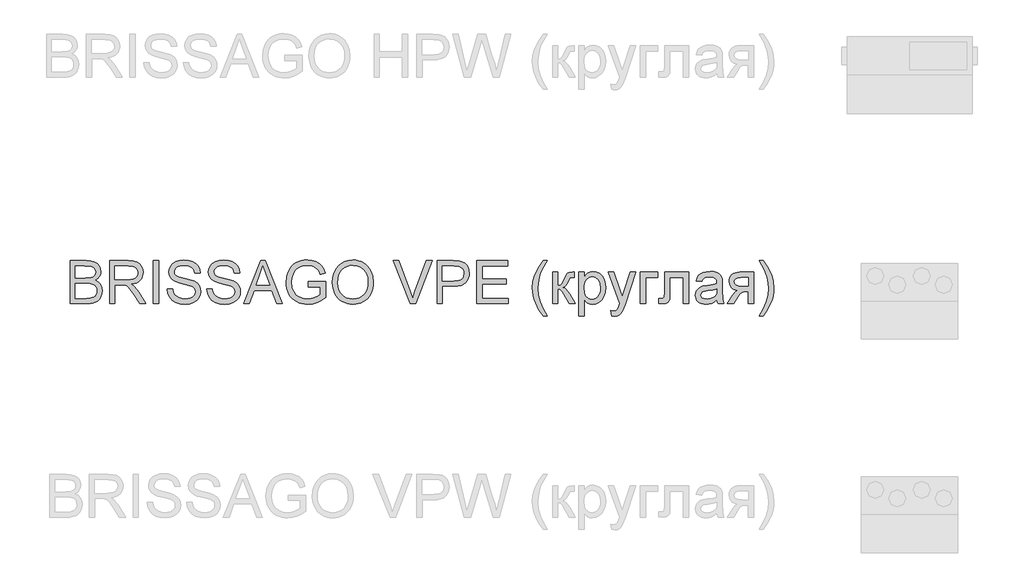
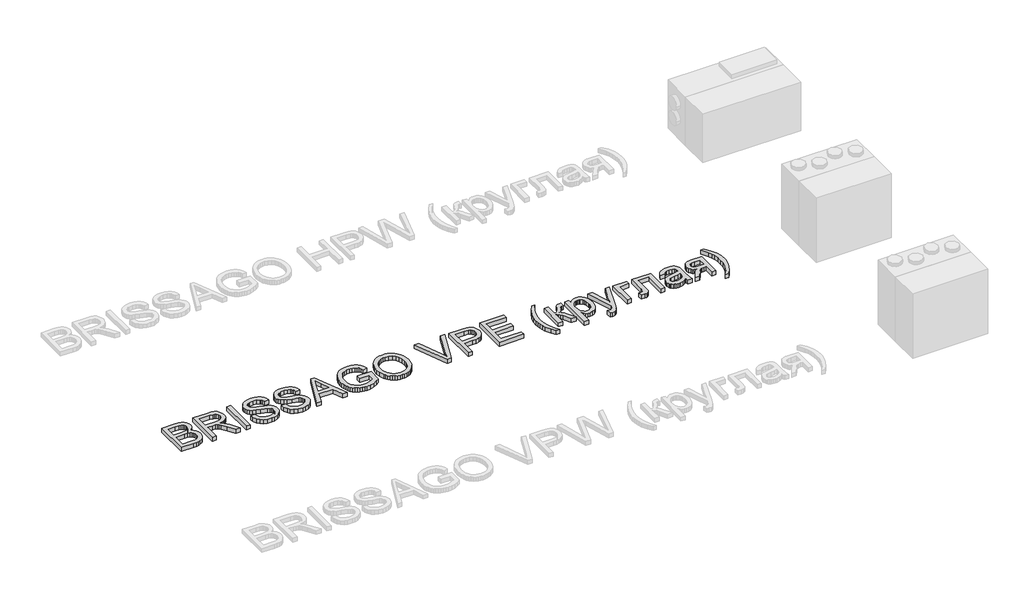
# One storey, part 14 of 28: 1 proxy.
"""IFC4 building model written with IfcOpenShell, lengths in millimetres."""

from ifc_helpers import new_model, si_unit, origin, origin_with_axes, place, context, project, spatial, polyline, outline, extrude, element, save

model = new_model("IFC4")

# Units and contexts
model_context = context("Model", 3, world=origin())
ifc_project = project(units=[si_unit("LENGTHUNIT", "METRE", prefix="MILLI")], contexts=[model_context])

# Site, building, storey
site = spatial("IfcSite", under=ifc_project)
building = spatial("IfcBuilding", under=site)
storey = spatial("IfcBuildingStorey", under=building, Name="Уровень 1", Elevation=0.0)

# Proxy
placement = place(None, origin())
element("IfcBuildingElementProxy", 1, Name="400 мм Arial", ObjectType="400 мм Arial", at=placement, inside=storey, context=model_context, shape_type="SweptSolid", body=[
    extrude(outline(polyline([(-28533.6034252, 1651.3067858), (-28533.6034252, 2053.1320263), (-28380.2702096, 2053.1320263), (-28338.0986702, 2050.1767077), (-28305.1732316, 2041.3107516), (-28279.9365268, 2026.3134289), (-28260.8311885, 2004.9640104), (-28248.8014472, 1979.8499329), (-28244.7915335, 1953.558633), (-28248.1637851, 1929.3642604), (-28258.28054, 1906.6168904), (-28275.2153745, 1886.7144745), (-28299.0418651, 1871.0549642), (-28270.5800614, 1856.1925316), (-28249.549474, 1833.5800516), (-28236.5632395, 1804.7135777), (-28232.2344947, 1771.0891634), (-28235.1898134, 1743.0688181), (-28244.0557695, 1717.0840865), (-28257.2872586, 1694.9866413), (-28273.3391763, 1678.6281553), (-28292.9963376, 1666.782355), (-28317.0435574, 1658.2229673), (-28346.2656505, 1653.0358311), (-28381.447432, 1651.3067858), (-28533.6034252, 1651.3067858)]), holes=[polyline([(-28483.3752701, 1889.8905224), (-28391.650026, 1889.8905224), (-28338.0864075, 1894.2070044), (-28319.3366885, 1901.6504835), (-28305.8599447, 1912.7973079), (-28297.7297526, 1927.4757995), (-28295.0196886, 1945.51428), (-28297.5458116, 1963.025463), (-28305.1241807, 1978.2803031), (-28317.4114393, 1990.187417), (-28334.064231, 1997.6554215), (-28359.6197669, 2001.5917588), (-28398.6152584, 2002.9038713), (-28483.3752701, 2002.9038713), (-28483.3752701, 1889.8905224)]), polyline([(-28483.3752701, 1701.5349408), (-28380.3683115, 1701.5349408), (-28343.0896026, 1703.4969781), (-28311.5498529, 1714.4353361), (-28299.9738328, 1723.8653779), (-28290.6541556, 1736.7535105), (-28284.5105262, 1752.5233854), (-28282.4626498, 1770.5986541), (-28284.8661455, 1791.5924532), (-28292.0766326, 1809.6431965), (-28304.6704596, 1823.7576024), (-28323.2239749, 1832.9423895), (-28349.5030121, 1837.9823728), (-28385.2734047, 1839.6623673), (-28483.3752701, 1839.6623673), (-28483.3752701, 1701.5349408)])]), origin_with_axes(), (0.0, 0.0, 1.0), 50.0),
    extrude(outline(polyline([(-28163.1707815, 1651.3067858), (-28163.1707815, 2053.1320263), (-27990.0209891, 2053.1320263), (-27943.4839167, 2050.4219623), (-27909.6265104, 2042.2917702), (-27884.8803149, 2027.2821848), (-27865.6768747, 2003.9339409), (-27853.3528279, 1974.9816278), (-27849.2448123, 1943.1598353), (-27850.9462665, 1922.5216553), (-27856.0506292, 1903.5757326), (-27864.5579003, 1886.322067), (-27876.4680799, 1870.7606586), (-27891.9344521, 1857.3881481), (-27911.1103011, 1846.7011761), (-27933.9956269, 1838.6997427), (-27960.5904295, 1833.3838479), (-27932.0427867, 1811.8995394), (-27891.3305125, 1760.1998563), (-27824.3269385, 1651.3067858), (-27882.6975484, 1651.3067858), (-27934.9858426, 1734.5952695), (-27972.7550608, 1789.7285178), (-27986.7958903, 1805.804961), (-27999.2916154, 1815.7745631), (-28023.1794196, 1825.3394949), (-28052.3156736, 1827.1053285), (-28112.9426264, 1827.1053285), (-28112.9426264, 1651.3067858), (-28163.1707815, 1651.3067858)]), holes=[polyline([(-28112.9426264, 1877.3334836), (-28000.5178887, 1877.3334836), (-27968.2301123, 1879.1115799), (-27943.1773484, 1884.4458688), (-27924.3172648, 1893.6919696), (-27910.6075291, 1907.2055016), (-27902.2566078, 1923.5517249), (-27899.4729674, 1941.2958998), (-27904.7827308, 1965.7968407), (-27920.7120212, 1985.5398411), (-27932.8735868, 1993.1366043), (-27948.1192299, 1998.5628637), (-27987.8627481, 2002.9038713), (-28112.9426264, 2002.9038713), (-28112.9426264, 1877.3334836)])]), origin_with_axes(), (0.0, 0.0, 1.0), 50.0),
    extrude(outline(polyline([(-27755.0670215, 1651.3067858), (-27755.0670215, 2053.1320263), (-27704.8388664, 2053.1320263), (-27704.8388664, 1651.3067858), (-27755.0670215, 1651.3067858)])), origin_with_axes(), (0.0, 0.0, 1.0), 50.0),
    extrude(outline(polyline([(-27623.2181145, 1789.4342122), (-27572.9899594, 1789.4342122), (-27567.2264748, 1761.5610197), (-27556.8031516, 1739.1570062), (-27540.5427674, 1721.3760431), (-27517.2680998, 1707.3720018), (-27488.8185589, 1698.2853165), (-27457.0335545, 1695.2564214), (-27429.0499974, 1697.5495525), (-27404.5490565, 1704.4289459), (-27384.6956915, 1715.3182529), (-27370.654862, 1729.6411253), (-27362.3039407, 1746.0854504), (-27359.5203003, 1763.339116), (-27361.6049649, 1780.1513232), (-27367.8589589, 1794.682662), (-27380.5631504, 1807.0802852), (-27401.998408, 1817.4913457), (-27475.1333487, 1836.6702604), (-27523.141949, 1849.3621892), (-27553.8600956, 1861.4409814), (-27578.8638086, 1878.3390277), (-27596.583458, 1898.8177921), (-27607.1416713, 1922.4358162), (-27610.6610757, 1948.7516416), (-27606.3078054, 1978.1699385), (-27593.2479946, 2005.6016726), (-27571.8249997, 2028.8518147), (-27542.3821774, 2045.7253355), (-27507.0409804, 2055.9892432), (-27467.9228616, 2059.4105457), (-27425.5428557, 2055.8298276), (-27388.4603506, 2045.0876734), (-27357.9997214, 2027.4048122), (-27335.4853433, 2003.0019731), (-27321.2360473, 1973.3997353), (-27315.5706646, 1940.1186774), (-27365.7988197, 1940.1186774), (-27375.020395, 1970.0887973), (-27383.3835791, 1981.9468603), (-27394.2483607, 1991.7202586), (-27424.2920569, 2004.8168576), (-27465.9608242, 2009.1823907), (-27508.6106102, 2004.8659086), (-27524.913914, 1999.470306), (-27537.8694916, 1991.9164624), (-27554.7920633, 1972.860175), (-27560.4329206, 1950.2231696), (-27556.4352696, 1930.9216276), (-27544.4423166, 1915.3970074), (-27516.0908775, 1901.5155934), (-27462.4291571, 1887.3398739), (-27407.0506541, 1873.8753928), (-27373.5488671, 1862.1276945), (-27344.9153851, 1843.905273), (-27324.9393928, 1821.4154203), (-27313.2039571, 1794.9033912), (-27309.2921452, 1764.6144403), (-27313.7925683, 1733.651039), (-27327.2938375, 1704.5270477), (-27349.2441299, 1679.4620211), (-27379.0916225, 1660.6755139), (-27414.9846424, 1648.9400782), (-27455.0715172, 1645.0282664), (-27504.2818654, 1649.2466466), (-27544.7856731, 1661.9017872), (-27577.0489241, 1683.0427392), (-27601.5376022, 1712.7185535), (-27617.2584261, 1748.8690909), (-27623.2181145, 1789.4342122)])), origin_with_axes(), (0.0, 0.0, 1.0), 50.0),
    extrude(outline(polyline([(-27252.7854708, 1789.4342122), (-27202.5573157, 1789.4342122), (-27196.7938311, 1761.5610197), (-27186.3705079, 1739.1570062), (-27170.1101237, 1721.3760431), (-27146.8354562, 1707.3720018), (-27118.3859152, 1698.2853165), (-27086.6009108, 1695.2564214), (-27058.6173537, 1697.5495525), (-27034.1164128, 1704.4289459), (-27014.2630478, 1715.3182529), (-27000.2222184, 1729.6411253), (-26991.8712971, 1746.0854504), (-26989.0876566, 1763.339116), (-26991.1723213, 1780.1513232), (-26997.4263152, 1794.682662), (-27010.1305068, 1807.0802852), (-27031.5657643, 1817.4913457), (-27104.700705, 1836.6702604), (-27152.7093054, 1849.3621892), (-27183.427452, 1861.4409814), (-27208.4311649, 1878.3390277), (-27226.1508143, 1898.8177921), (-27236.7090276, 1922.4358162), (-27240.228432, 1948.7516416), (-27235.8751617, 1978.1699385), (-27222.8153509, 2005.6016726), (-27201.392356, 2028.8518147), (-27171.9495337, 2045.7253355), (-27136.6083367, 2055.9892432), (-27097.4902179, 2059.4105457), (-27055.110212, 2055.8298276), (-27018.0277069, 2045.0876734), (-26987.5670777, 2027.4048122), (-26965.0526996, 2003.0019731), (-26950.8034037, 1973.3997353), (-26945.1380209, 1940.1186774), (-26995.366176, 1940.1186774), (-27004.5877514, 1970.0887973), (-27012.9509354, 1981.9468603), (-27023.815717, 1991.7202586), (-27053.8594132, 2004.8168576), (-27095.5281806, 2009.1823907), (-27138.1779665, 2004.8659086), (-27154.4812703, 1999.470306), (-27167.4368479, 1991.9164624), (-27184.3594197, 1972.860175), (-27190.0002769, 1950.2231696), (-27186.0026259, 1930.9216276), (-27174.0096729, 1915.3970074), (-27145.6582338, 1901.5155934), (-27091.9965134, 1887.3398739), (-27036.6180104, 1873.8753928), (-27003.1162234, 1862.1276945), (-26974.4827414, 1843.905273), (-26954.5067491, 1821.4154203), (-26942.7713134, 1794.9033912), (-26938.8595016, 1764.6144403), (-26943.3599246, 1733.651039), (-26956.8611939, 1704.5270477), (-26978.8114862, 1679.4620211), (-27008.6589788, 1660.6755139), (-27044.5519988, 1648.9400782), (-27084.6388735, 1645.0282664), (-27133.8492217, 1649.2466466), (-27174.3530294, 1661.9017872), (-27206.6162804, 1683.0427392), (-27231.1049585, 1712.7185535), (-27246.8257825, 1748.8690909), (-27252.7854708, 1789.4342122)])), origin_with_axes(), (0.0, 0.0, 1.0), 50.0),
    extrude(outline(polyline([(-26910.3118587, 1651.3067858), (-26749.9153088, 2053.1320263), (-26707.1428955, 2053.1320263), (-26546.7463456, 1651.3067858), (-26599.8194548, 1651.3067858), (-26645.8292297, 1776.8771734), (-26811.3270766, 1776.8771734), (-26857.2387496, 1651.3067858), (-26910.3118587, 1651.3067858)]), holes=[polyline([(-26792.8839259, 1827.1053285), (-26664.1742785, 1827.1053285), (-26700.3738668, 1925.893907), (-26728.5291022, 2002.9038713), (-26753.5450779, 1934.5268711), (-26792.8839259, 1827.1053285)])]), origin_with_axes(), (0.0, 0.0, 1.0), 50.0),
    extrude(outline(polyline([(-26304.7290437, 1808.2697704), (-26304.7290437, 1858.4979254), (-26141.4875397, 1858.4979254), (-26141.4875397, 1708.3039695), (-26181.1574816, 1680.7128199), (-26222.0782222, 1660.9207686), (-26264.1516597, 1649.0013919), (-26307.2796922, 1645.0282664), (-26336.1308377, 1646.6070933), (-26363.6269512, 1651.343574), (-26389.7680326, 1659.2377084), (-26414.554082, 1670.2894967), (-26437.1849561, 1684.3333919), (-26456.8605115, 1701.203847), (-26473.5807482, 1720.9008622), (-26487.3456661, 1743.4244373), (-26498.0970175, 1768.0541369), (-26505.7765541, 1794.0695253), (-26510.3842761, 1821.4706026), (-26511.9201834, 1850.2573687), (-26505.8010796, 1906.8498823), (-26498.1521998, 1933.6654141), (-26487.443768, 1959.4937958), (-26473.8658567, 1983.2007247), (-26457.6085382, 2003.651898), (-26438.6718125, 2020.8473156), (-26417.0556796, 2034.7869775), (-26393.229189, 2045.5597886), (-26367.6613904, 2053.2546537), (-26340.3522836, 2057.8715727), (-26311.3018687, 2059.4105457), (-26269.927407, 2055.8420904), (-26232.7222745, 2045.1367243), (-26201.3909913, 2028.0669997), (-26177.6380771, 2005.4054688), (-26160.0655805, 1976.0607484), (-26147.2755498, 1938.941455), (-26193.5796303, 1925.893907), (-26203.9171143, 1952.3691479), (-26216.4864158, 1972.3451402), (-26233.114682, 1987.4037765), (-26255.6290601, 1999.1269495), (-26282.472183, 2006.6685304), (-26312.0866836, 2009.1823907), (-26346.7534303, 2006.4723266), (-26376.3924564, 1998.3421345), (-26400.8933973, 1985.8096212), (-26420.1458884, 1969.8925936), (-26434.9224818, 1951.4126547), (-26445.9957299, 1931.1914077), (-26457.7679537, 1893.2750367), (-26461.6920283, 1852.3175079), (-26456.9708761, 1804.2843821), (-26442.8074193, 1764.7615931), (-26419.6308536, 1734.0311837), (-26387.8703746, 1712.375197), (-26350.7020304, 1699.5361153), (-26311.3018687, 1695.2564214), (-26276.5124947, 1698.4815203), (-26242.581512, 1708.1568167), (-26213.1141642, 1721.4864077), (-26191.7156948, 1735.67439), (-26191.7156948, 1808.2697704), (-26304.7290437, 1808.2697704)])), origin_with_axes(), (0.0, 0.0, 1.0), 50.0),
    extrude(outline(polyline([(-26078.7023459, 1846.9219053), (-26075.3546197, 1894.0537203), (-26065.3114413, 1935.7776699), (-26048.5728105, 1972.0937542), (-26025.1387274, 2003.0019731), (-25996.4132749, 2027.6807237), (-25963.8005361, 2045.3084026), (-25927.3005108, 2055.8850099), (-25886.9131991, 2059.4105457), (-25859.8800038, 2057.7550768), (-25834.2079719, 2052.7886698), (-25809.8971034, 2044.5113249), (-25786.9473983, 2032.9230421), (-25766.00265, 2018.3733092), (-25747.7066521, 2001.2116141), (-25732.0594046, 1981.4379569), (-25719.0609074, 1959.0523374), (-25708.8460507, 1934.5636593), (-25701.5497244, 1908.4808258), (-25695.7126635, 1851.532693), (-25697.2485708, 1821.8752728), (-25701.8562928, 1793.8242707), (-25709.5358294, 1767.3796866), (-25720.2871807, 1742.5415206), (-25733.855895, 1719.9658288), (-25749.9875205, 1700.3086675), (-25768.6820572, 1683.5700367), (-25789.9395052, 1669.7499364), (-25812.9229328, 1658.9342058), (-25836.7954086, 1651.2086839), (-25861.5569326, 1646.5733707), (-25887.2075047, 1645.0282664), (-25914.7128152, 1646.735852), (-25940.7220722, 1651.8586087), (-25965.2352759, 1660.3965367), (-25988.252426, 1672.3496359), (-26009.1726488, 1687.254988), (-26027.3950703, 1704.6496751), (-26042.9196905, 1724.5336969), (-26055.7465094, 1746.9070536), (-26072.9633868, 1795.5287906), (-26078.7023459, 1846.9219053)]), holes=[polyline([(-26028.4741908, 1846.431396), (-26025.9633962, 1813.1319441), (-26018.4310124, 1783.5726258), (-26005.8770393, 1757.7534411), (-25988.301477, 1735.67439), (-25966.9367301, 1717.9915287), (-25943.0152033, 1705.3609136), (-25916.5368967, 1697.7825445), (-25887.5018103, 1695.2564214), (-25857.9700831, 1697.8070699), (-25831.1790768, 1705.4590154), (-25807.1287914, 1718.2122579), (-25785.8192268, 1736.0667974), (-25768.3724232, 1758.6118324), (-25755.9104206, 1785.4365612), (-25748.433219, 1816.5409839), (-25745.9408185, 1851.9251005), (-25750.2082497, 1896.3897709), (-25763.0105431, 1934.8211767), (-25784.016605, 1966.2505618), (-25812.8953417, 1989.7091704), (-25847.7337666, 2004.3140856), (-25886.6188935, 2009.1823907), (-25914.6453702, 2006.8371429), (-25940.6484958, 1999.8013998), (-25964.6282706, 1988.0751612), (-25986.5846943, 1971.6584272), (-26004.911349, 1949.7602514), (-26018.0018167, 1921.5896876), (-26025.8560973, 1887.1467358), (-26028.4741908, 1846.431396)])]), origin_with_axes(), (0.0, 0.0, 1.0), 50.0),
    extrude(outline(polyline([(-25350.9827085, 1651.3067858), (-25510.8887491, 2053.1320263), (-25457.1289268, 2053.1320263), (-25350.0997917, 1763.6334216), (-25328.4192795, 1698.3956811), (-25307.0330728, 1763.6334216), (-25199.7096321, 2053.1320263), (-25145.9498099, 2053.1320263), (-25299.0868217, 1651.3067858), (-25350.9827085, 1651.3067858)])), origin_with_axes(), (0.0, 0.0, 1.0), 50.0),
    extrude(outline(polyline([(-25099.2533219, 1651.3067858), (-25099.2533219, 2053.1320263), (-24950.3346903, 2053.1320263), (-24890.2963487, 2049.3060536), (-24863.5268022, 2042.1568802), (-24841.4906707, 2030.5195464), (-24823.7464958, 2013.8667547), (-24809.8528191, 1991.6712077), (-24800.8764984, 1965.4902724), (-24797.8843915, 1936.8813159), (-24799.9046768, 1912.2148281), (-24805.9655327, 1889.5226404), (-24816.0669591, 1868.8047527), (-24830.2089561, 1850.061165), (-24849.6239284, 1834.5242821), (-24875.5442807, 1823.4265086), (-24907.9700129, 1816.7678444), (-24946.901125, 1814.5482897), (-25049.0251669, 1814.5482897), (-25049.0251669, 1651.3067858), (-25099.2533219, 1651.3067858)]), holes=[polyline([(-25049.0251669, 1864.7764448), (-24943.958069, 1864.7764448), (-24899.4198222, 1869.3872325), (-24882.8160814, 1875.1507171), (-24869.9892625, 1883.2195955), (-24860.4181993, 1893.3792699), (-24853.5817256, 1905.4151426), (-24848.1125466, 1935.1154823), (-24851.3376454, 1957.6789113), (-24861.0129419, 1976.7106732), (-24875.9366881, 1991.0335456), (-24894.9071364, 1999.470306), (-24945.1352914, 2002.9038713), (-25049.0251669, 2002.9038713), (-25049.0251669, 1864.7764448)])]), origin_with_axes(), (0.0, 0.0, 1.0), 50.0),
    extrude(outline(polyline([(-24728.8206783, 1651.3067858), (-24728.8206783, 2053.1320263), (-24440.0087866, 2053.1320263), (-24440.0087866, 2002.9038713), (-24678.5925232, 2002.9038713), (-24678.5925232, 1883.612003), (-24452.5658254, 1883.612003), (-24452.5658254, 1833.3838479), (-24678.5925232, 1833.3838479), (-24678.5925232, 1701.5349408), (-24433.7302672, 1701.5349408), (-24433.7302672, 1651.3067858), (-24728.8206783, 1651.3067858)])), origin_with_axes(), (0.0, 0.0, 1.0), 50.0),
    extrude(outline(polyline([(-24107.2472592, 1538.2934368), (-24146.1691743, 1592.9116504), (-24178.5673153, 1656.1137772), (-24191.3144265, 1690.1673872), (-24200.4195059, 1724.8341339), (-24205.8825535, 1760.1140172), (-24207.7035694, 1796.0070372), (-24202.2589158, 1858.424349), (-24185.9249552, 1918.1438596), (-24153.5022887, 1985.7850958), (-24107.2472592, 2053.1320263), (-24069.5761429, 2053.1320263), (-24116.5669364, 1973.5714135), (-24132.6065914, 1935.8021954), (-24144.8202737, 1896.4633473), (-24154.3116291, 1846.2106668), (-24157.4754143, 1795.7127316), (-24151.9817098, 1731.3211197), (-24135.5005964, 1666.9540333), (-24108.0320741, 1602.6114723), (-24069.5761429, 1538.2934368), (-24107.2472592, 1538.2934368)])), origin_with_axes(), (0.0, 0.0, 1.0), 50.0),
    extrude(outline(polyline([(-24019.3479878, 1946.3971968), (-23969.1198328, 1946.3971968), (-23969.1198328, 1820.8268091), (-23948.6901193, 1823.083152), (-23935.4708929, 1829.8521807), (-23923.7722455, 1847.5105165), (-23907.9042688, 1882.4347806), (-23884.9974832, 1927.8068933), (-23875.5551787, 1936.967155), (-23864.7884989, 1942.5712241), (-23828.0493503, 1946.3971968), (-23818.4353675, 1946.3971968), (-23818.4353675, 1895.8747361), (-23831.973425, 1896.1690417), (-23847.6697234, 1894.8446666), (-23856.4988913, 1890.871541), (-23873.7648196, 1857.8112124), (-23884.3720838, 1835.7750809), (-23894.0228548, 1822.0530824), (-23905.7092395, 1812.8928208), (-23922.4233448, 1804.5418995), (-23906.5063172, 1797.4724338), (-23890.7364423, 1784.9951028), (-23875.1137203, 1767.1099065), (-23859.638151, 1743.8168448), (-23805.8783288, 1651.3067858), (-23862.9736144, 1651.3067858), (-23915.6543161, 1741.8548075), (-23929.8790866, 1765.9510782), (-23942.1418198, 1780.1635859), (-23954.5271803, 1787.1165556), (-23969.1198328, 1789.4342122), (-23969.1198328, 1651.3067858), (-24019.3479878, 1651.3067858), (-24019.3479878, 1946.3971968)])), origin_with_axes(), (0.0, 0.0, 1.0), 50.0),
    extrude(outline(polyline([(-23774.4857318, 1538.2934368), (-23774.4857318, 1946.3971968), (-23724.2575768, 1946.3971968), (-23724.2575768, 1897.1500604), (-23707.8745653, 1921.4425348), (-23689.5295164, 1938.7943022), (-23668.1433098, 1949.2053627), (-23642.6368248, 1952.6757162), (-23608.6690539, 1947.8196739), (-23578.9687141, 1933.2515469), (-23554.7866043, 1909.854252), (-23537.3735232, 1878.510706), (-23526.8520982, 1841.5017773), (-23523.3449565, 1801.1083342), (-23527.3058193, 1758.1519799), (-23539.1884077, 1719.7328369), (-23558.6125771, 1687.8006797), (-23585.1981826, 1664.3052829), (-23616.1615839, 1649.8475205), (-23648.7191404, 1645.0282664), (-23671.809867, 1648.2533652), (-23692.4235215, 1657.9286617), (-23710.0695945, 1672.5335769), (-23724.2575768, 1690.5475319), (-23724.2575768, 1538.2934368), (-23774.4857318, 1538.2934368)]), holes=[polyline([(-23724.2575768, 1796.4975465), (-23718.825186, 1751.4687903), (-23712.0346975, 1734.0311837), (-23702.5280136, 1719.9780915), (-23678.4807938, 1701.436839), (-23664.7189415, 1696.8015258), (-23649.7982609, 1695.2564214), (-23634.6629825, 1696.8567081), (-23620.6497442, 1701.6575682), (-23607.7585459, 1709.6590016), (-23595.9893878, 1720.8610083), (-23586.1822669, 1735.4230039), (-23579.1771806, 1753.504404), (-23574.9741288, 1775.1052085), (-23573.5731115, 1800.2254174), (-23579.0422905, 1845.0089189), (-23585.8787643, 1862.5814156), (-23595.4498275, 1876.9410761), (-23619.4602591, 1896.0709399), (-23633.0657615, 1900.8534058), (-23647.7381218, 1902.4475611), (-23662.3644968, 1900.7522383), (-23676.1263491, 1895.6662697), (-23701.0564856, 1875.3223953), (-23711.206963, 1860.2239051), (-23718.457304, 1842.0536003), (-23722.8075086, 1820.8114807), (-23724.2575768, 1796.4975465)])]), origin_with_axes(), (0.0, 0.0, 1.0), 50.0),
    extrude(outline(polyline([(-23466.838282, 1538.2934368), (-23473.1168014, 1586.6576565), (-23447.6103164, 1582.2430725), (-23434.1948863, 1583.6287614), (-23423.7715631, 1587.7858279), (-23409.1543852, 1603.2368717), (-23395.420124, 1640.221275), (-23391.4960494, 1652.3859063), (-23498.2308789, 1946.3971968), (-23445.2558716, 1946.3971968), (-23388.6510953, 1782.5670816), (-23368.9326204, 1717.0350356), (-23349.2141454, 1774.9151361), (-23291.0397392, 1946.3971968), (-23238.4571394, 1946.3971968), (-23341.1697925, 1644.2434514), (-23367.8534998, 1578.7114054), (-23381.5141846, 1557.7911826), (-23396.9897539, 1543.296632), (-23414.9669207, 1534.8353461), (-23436.1323981, 1532.0149174), (-23466.838282, 1538.2934368)])), origin_with_axes(), (0.0, 0.0, 1.0), 50.0),
    extrude(outline(polyline([(-23196.8619485, 1946.3971968), (-23033.6204445, 1946.3971968), (-23033.6204445, 1896.1690417), (-23146.6337934, 1896.1690417), (-23146.6337934, 1651.3067858), (-23196.8619485, 1651.3067858), (-23196.8619485, 1946.3971968)])), origin_with_axes(), (0.0, 0.0, 1.0), 50.0),
    extrude(outline(polyline([(-22970.8352506, 1946.3971968), (-22744.8085528, 1946.3971968), (-22744.8085528, 1651.6010913), (-22795.0367079, 1651.6010913), (-22795.0367079, 1896.1690417), (-22920.6070956, 1896.1690417), (-22920.6070956, 1755.3928649), (-22923.9916099, 1690.44943), (-22930.331443, 1675.746413), (-22942.5819134, 1663.0299587), (-22961.1722169, 1654.237579), (-22986.5315491, 1651.3067858), (-23027.3419251, 1653.8574343), (-23027.3419251, 1701.5349408), (-23004.8765979, 1701.5349408), (-22982.1660161, 1704.6251496), (-22973.0915936, 1714.4353361), (-22970.8352506, 1758.237819), (-22970.8352506, 1946.3971968)])), origin_with_axes(), (0.0, 0.0, 1.0), 50.0),
    extrude(outline(polyline([(-22481.1107387, 1688.9779021), (-22505.1089075, 1668.4010358), (-22529.8183148, 1654.9365548), (-22555.8030464, 1647.5053385), (-22583.627188, 1645.0282664), (-22605.9913476, 1646.5181884), (-22625.6025236, 1650.9879547), (-22642.4607161, 1658.4375651), (-22656.5659249, 1668.8670197), (-22667.7035523, 1681.6141308), (-22675.6590005, 1696.0167109), (-22680.4322693, 1712.07476), (-22682.023359, 1729.7882781), (-22679.6198633, 1750.610399), (-22672.4093762, 1769.5195335), (-22661.2870772, 1785.7063413), (-22647.1481458, 1798.361482), (-22630.5321424, 1807.9264138), (-22611.9786271, 1814.8425953), (-22568.5195007, 1822.396439), (-22517.1631742, 1830.3426901), (-22481.4050443, 1839.6623673), (-22481.1107387, 1850.8459799), (-22484.5688294, 1873.2622562), (-22494.9431017, 1887.928485), (-22518.1441928, 1898.8177921), (-22550.4687575, 1902.4475611), (-22580.3898264, 1900.0318027), (-22601.2855238, 1892.7845274), (-22615.5348197, 1879.38136), (-22625.5166845, 1858.4979254), (-22675.7448396, 1864.7764448), (-22667.0260363, 1892.2449671), (-22654.0152764, 1913.8273775), (-22635.4985493, 1930.3330164), (-22610.2618444, 1942.5712241), (-22579.396545, 1950.1495932), (-22543.9940344, 1952.6757162), (-22510.0385262, 1950.4438988), (-22483.1218269, 1943.7484465), (-22462.8270035, 1933.6807425), (-22448.7371231, 1921.3321702), (-22439.3929204, 1906.0650674), (-22433.3351302, 1887.241772), (-22430.8825836, 1843.2921363), (-22430.8825836, 1780.8012481), (-22428.3319351, 1693.5396388), (-22418.3255448, 1651.3067858), (-22468.5536999, 1651.3067858), (-22476.5980529, 1668.7689178), (-22481.1107387, 1688.9779021)]), holes=[polyline([(-22481.1107387, 1789.4342122), (-22514.8577804, 1781.0710282), (-22562.1428795, 1774.0322193), (-22605.3567512, 1765.8897645), (-22616.6016775, 1760.3224837), (-22624.9280733, 1752.6460127), (-22630.0784212, 1743.4489628), (-22631.7952039, 1733.3199452), (-22628.0550703, 1718.3839362), (-22616.8346694, 1706.1457285), (-22598.379256, 1697.9787482), (-22572.9340847, 1695.2564214), (-22545.9560717, 1698.2607911), (-22522.1173184, 1707.2739), (-22502.7912509, 1720.55444), (-22489.3512954, 1736.361103), (-22483.391607, 1752.6460127), (-22481.4050443, 1775.2094417), (-22481.1107387, 1789.4342122)])]), origin_with_axes(), (0.0, 0.0, 1.0), 50.0),
    extrude(outline(polyline([(-22135.7921725, 1946.3971968), (-22135.7921725, 1651.3067858), (-22186.0203276, 1651.3067858), (-22186.0203276, 1764.3201347), (-22213.390748, 1764.3201347), (-22235.2184131, 1762.7259794), (-22250.6694569, 1757.9435134), (-22265.556415, 1744.037574), (-22285.6918228, 1715.0729982), (-22325.7173839, 1651.3067858), (-22383.7936882, 1651.3067858), (-22333.3693294, 1731.9465191), (-22311.100206, 1760.8865694), (-22290.5969161, 1773.7379137), (-22324.932569, 1784.2593388), (-22338.2744227, 1793.0701126), (-22349.0656279, 1804.2475939), (-22363.3394493, 1830.8331994), (-22368.0973897, 1861.1466758), (-22366.4725776, 1879.2342072), (-22361.5981412, 1895.5313796), (-22353.4740804, 1910.038193), (-22342.1003954, 1922.7546473), (-22327.6487644, 1933.0982627), (-22310.2908656, 1940.4865594), (-22290.026699, 1944.9195375), (-22266.8562647, 1946.3971968), (-22135.7921725, 1946.3971968)]), holes=[polyline([(-22186.0203276, 1896.1690417), (-22252.2390867, 1896.1690417), (-22286.4398496, 1893.262774), (-22305.8517562, 1884.5439707), (-22314.864865, 1871.9256183), (-22317.8692347, 1857.3207031), (-22313.442388, 1838.1785766), (-22300.161848, 1824.8980365), (-22275.6241189, 1817.1357264), (-22237.4257051, 1814.5482897), (-22186.0203276, 1814.5482897), (-22186.0203276, 1896.1690417)])]), origin_with_axes(), (0.0, 0.0, 1.0), 50.0),
    extrude(outline(polyline([(-22047.8929011, 1538.2934368), (-22085.5640175, 1538.2934368), (-22047.1080862, 1602.6114723), (-22019.6395639, 1666.9540333), (-22003.1584505, 1731.3211197), (-21997.6647461, 1795.7127316), (-22000.8285312, 1845.8427848), (-22010.3198867, 1895.5804305), (-22022.3128397, 1934.992855), (-22038.2789183, 1972.7865986), (-22085.5640175, 2053.1320263), (-22047.8929011, 2053.1320263), (-22001.6378716, 1985.7850958), (-21969.2152051, 1918.1438596), (-21952.8812445, 1858.424349), (-21947.436591, 1796.0070372), (-21949.2668039, 1760.1140172), (-21954.7574427, 1724.8341339), (-21963.9085073, 1690.1673872), (-21976.7199978, 1656.1137772), (-22009.1549271, 1592.9116504), (-22047.8929011, 1538.2934368)])), origin_with_axes(), (0.0, 0.0, 1.0), 50.0),
])

save(model, "model.ifc")
